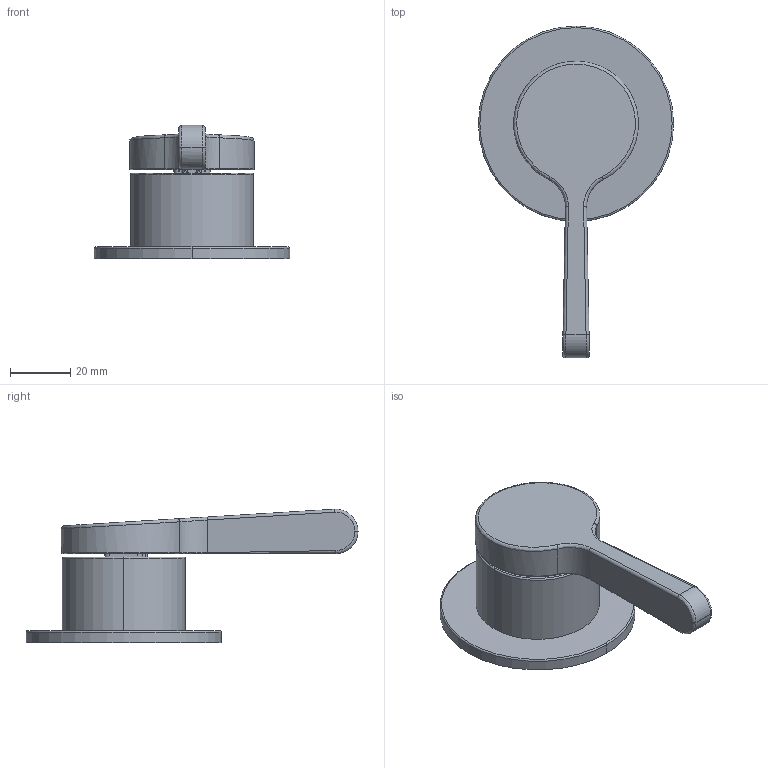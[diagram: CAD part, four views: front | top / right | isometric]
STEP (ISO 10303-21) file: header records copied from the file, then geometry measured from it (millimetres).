
FILE_DESCRIPTION((''),'2;1');
FILE_NAME('58000L963B000000_SW0001','2024-02-22T09:42:31',('cristian.dorz'),(''),'CREO PARAMETRIC BY PTC INC, 2022281','CREO PARAMETRIC BY PTC INC, 2022281','');
FILE_SCHEMA(('AUTOMOTIVE_DESIGN { 1 0 10303 214 1 1 1 1 }'));
Length unit declared in the file: millimetre
Products named in the file (1): 58000L963B000000_SW0001
Bounding box: 65 x 110.5 x 44.46 mm (x, y, z)
Volume: 65881.9 mm3; surface area: 17062.3 mm2
Topology: 1 solids, 1 shells, 78 faces, 201 edges, 129 vertices
Faces by surface type: cylinder 29, plane 27, bspline 13, torus 5, cone 4
Entity records: 8065 total; most frequent: CARTESIAN_POINT 5494, ORIENTED_EDGE 388, DIRECTION 381, EDGE_CURVE 194, AXIS2_PLACEMENT_3D 141, VERTEX_POINT 122, VECTOR 96, LINE 96
